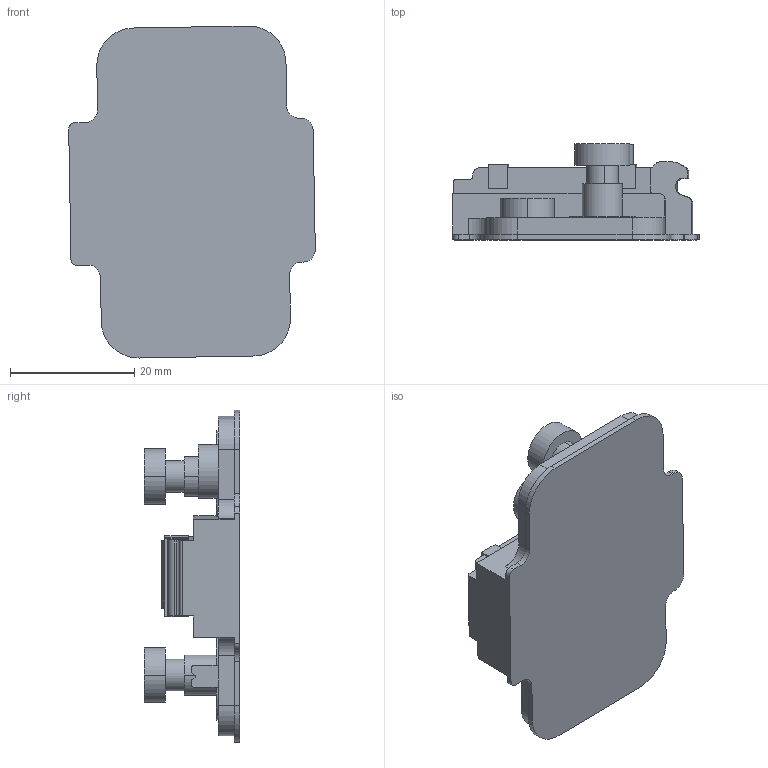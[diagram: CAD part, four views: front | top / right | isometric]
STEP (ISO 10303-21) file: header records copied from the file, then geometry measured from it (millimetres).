
FILE_DESCRIPTION (( 'STEP AP203' ), '1' );
FILE_NAME ('82T42TQ-DTC 3D.STEP', '2024-07-11T05:24:47', ( '微软用户' ), ( '微软中国' ), 'SwSTEP 2.0', 'SolidWorks 2021', '' );
FILE_SCHEMA (( 'CONFIG_CONTROL_DESIGN' ));
Length unit declared in the file: millimetre
Products named in the file (1): 82T42TQ-DTC 3D
Bounding box: 39.74 x 15.45 x 53.51 mm (x, y, z)
Volume: 11534.5 mm3; surface area: 5908.1 mm2
Topology: 1 solids, 1 shells, 148 faces, 414 edges, 276 vertices
Faces by surface type: plane 80, cylinder 59, bspline 7, torus 2
Entity records: 4914 total; most frequent: CARTESIAN_POINT 971, ORIENTED_EDGE 828, DIRECTION 798, EDGE_CURVE 414, VECTOR 278, LINE 278, VERTEX_POINT 276, AXIS2_PLACEMENT_3D 260
